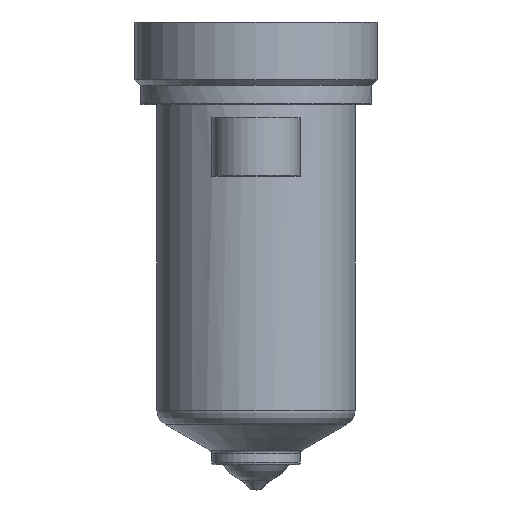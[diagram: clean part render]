
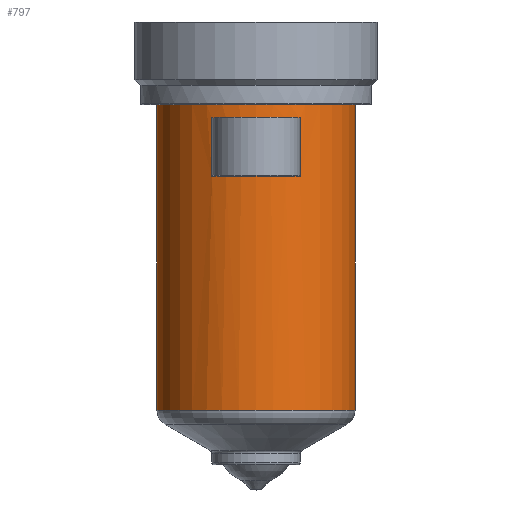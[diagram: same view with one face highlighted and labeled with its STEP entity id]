
A CAD part, top view. The second image highlights one B-rep face of the part: STEP entity #797.
In plain terms, the highlighted cylindrical face has radius 18 mm (diameter 36 mm), a partial arc.
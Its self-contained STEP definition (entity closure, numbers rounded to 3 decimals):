
#187=DIRECTION('',(0.,-1.,0.));
#188=VECTOR('',#187,55.506);
#189=CARTESIAN_POINT('',(18.,0.,0.));
#190=LINE('',#189,#188);
#191=CARTESIAN_POINT('',(0.,-55.506,0.));
#192=DIRECTION('',(0.,1.,0.));
#193=DIRECTION('',(-1.,0.,0.));
#194=AXIS2_PLACEMENT_3D('',#191,#192,#193);
#196=DIRECTION('',(0.,1.,0.));
#197=VECTOR('',#196,55.506);
#198=CARTESIAN_POINT('',(-18.,-55.506,0.));
#199=LINE('',#198,#197);
#200=CARTESIAN_POINT('',(0.,0.,0.));
#201=DIRECTION('',(0.,1.,0.));
#202=DIRECTION('',(-1.,0.,0.));
#203=AXIS2_PLACEMENT_3D('',#200,#201,#202);
#367=DIRECTION('',(0.,-1.,0.));
#368=VECTOR('',#367,10.5);
#369=CARTESIAN_POINT('',(-8.,-2.5,16.125));
#370=LINE('',#369,#368);
#371=CARTESIAN_POINT('',(0.,-13.,0.));
#372=DIRECTION('',(0.,1.,0.));
#373=DIRECTION('',(-0.444,0.,0.896));
#374=AXIS2_PLACEMENT_3D('',#371,#372,#373);
#397=CARTESIAN_POINT('',(0.,-2.5,0.));
#398=DIRECTION('',(0.,-1.,0.));
#399=DIRECTION('',(0.444,0.,0.896));
#400=AXIS2_PLACEMENT_3D('',#397,#398,#399);
#415=DIRECTION('',(0.,-1.,0.));
#416=VECTOR('',#415,10.5);
#417=CARTESIAN_POINT('',(8.,-2.5,16.125));
#418=LINE('',#417,#416);
#476=CARTESIAN_POINT('',(-18.,0.,0.));
#477=CARTESIAN_POINT('',(18.,0.,0.));
#478=VERTEX_POINT('',#476);
#479=VERTEX_POINT('',#477);
#488=CARTESIAN_POINT('',(-8.,-2.5,16.125));
#489=VERTEX_POINT('',#488);
#490=CARTESIAN_POINT('',(8.,-2.5,16.125));
#491=VERTEX_POINT('',#490);
#524=CARTESIAN_POINT('',(18.,-55.506,0.));
#525=VERTEX_POINT('',#524);
#534=CARTESIAN_POINT('',(-18.,-55.506,0.));
#535=VERTEX_POINT('',#534);
#556=CARTESIAN_POINT('',(-8.,-13.,16.125));
#557=CARTESIAN_POINT('',(8.,-13.,16.125));
#558=VERTEX_POINT('',#556);
#559=VERTEX_POINT('',#557);
#775=CARTESIAN_POINT('',(0.,16.4,0.));
#776=DIRECTION('',(0.,-1.,0.));
#777=DIRECTION('',(-1.,0.,0.));
#778=AXIS2_PLACEMENT_3D('',#775,#776,#777);
#779=CYLINDRICAL_SURFACE('',#778,18.);
#780=ORIENTED_EDGE('',*,*,#769,.T.);
#782=ORIENTED_EDGE('',*,*,#781,.F.);
#783=ORIENTED_EDGE('',*,*,#765,.T.);
#784=ORIENTED_EDGE('',*,*,#755,.T.);
#785=EDGE_LOOP('',(#780,#782,#783,#784));
#786=FACE_OUTER_BOUND('',#785,.F.);
#788=ORIENTED_EDGE('',*,*,#787,.T.);
#790=ORIENTED_EDGE('',*,*,#789,.T.);
#792=ORIENTED_EDGE('',*,*,#791,.F.);
#794=ORIENTED_EDGE('',*,*,#793,.T.);
#795=EDGE_LOOP('',(#788,#790,#792,#794));
#796=FACE_BOUND('',#795,.F.);
#797=ADVANCED_FACE('',(#786,#796),#779,.T.);
#195=CIRCLE('',#194,18.);
#204=CIRCLE('',#203,18.);
#375=CIRCLE('',#374,18.);
#401=CIRCLE('',#400,18.);
#755=EDGE_CURVE('',#478,#479,#204,.T.);
#765=EDGE_CURVE('',#535,#478,#199,.T.);
#769=EDGE_CURVE('',#479,#525,#190,.T.);
#781=EDGE_CURVE('',#535,#525,#195,.T.);
#787=EDGE_CURVE('',#489,#558,#370,.T.);
#789=EDGE_CURVE('',#558,#559,#375,.T.);
#791=EDGE_CURVE('',#491,#559,#418,.T.);
#793=EDGE_CURVE('',#491,#489,#401,.T.);
